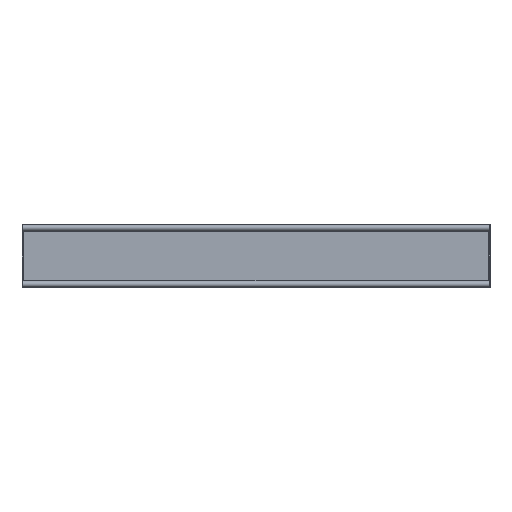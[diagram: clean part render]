
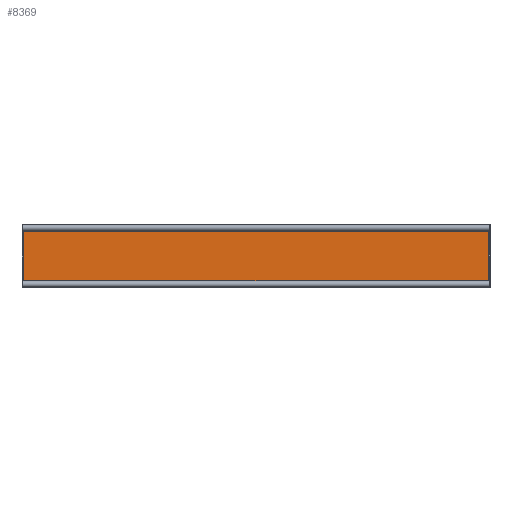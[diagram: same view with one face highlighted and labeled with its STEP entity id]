
A CAD part, front view. The second image highlights one B-rep face of the part: STEP entity #8369.
In plain terms, the highlighted planar face has unit normal (0, -1, 0).
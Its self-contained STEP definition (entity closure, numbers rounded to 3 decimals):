
#37 = CARTESIAN_POINT ( 'NONE',  ( 746., -2., -95. ) ) ;
#262 = CARTESIAN_POINT ( 'NONE',  ( -746., -2., 95. ) ) ;
#359 = CARTESIAN_POINT ( 'NONE',  ( -745., -2., -96. ) ) ;
#413 = ORIENTED_EDGE ( 'NONE', *, *, #2797, .T. ) ;
#825 = CARTESIAN_POINT ( 'NONE',  ( -749., -2., -99. ) ) ;
#831 = ORIENTED_EDGE ( 'NONE', *, *, #1752, .F. ) ;
#893 = VECTOR ( 'NONE', #6471, 1000. ) ;
#1139 = CARTESIAN_POINT ( 'NONE',  ( 746., -2., -99. ) ) ;
#1167 = ORIENTED_EDGE ( 'NONE', *, *, #8067, .T. ) ;
#1228 = CIRCLE ( 'NONE', #5874, 5. ) ;
#1525 = AXIS2_PLACEMENT_3D ( 'NONE', #8696, #1823, #4929 ) ;
#1571 = CIRCLE ( 'NONE', #7829, 5. ) ;
#1607 = AXIS2_PLACEMENT_3D ( 'NONE', #825, #7712, #9167 ) ;
#1752 = EDGE_CURVE ( 'NONE', #8797, #5882, #2778, .T. ) ;
#1823 = DIRECTION ( 'NONE',  ( 0., -1., 0. ) ) ;
#2277 = CARTESIAN_POINT ( 'NONE',  ( -745., -2., 96. ) ) ;
#2351 = EDGE_LOOP ( 'NONE', ( #5913, #1167, #831, #9894, #9229, #2529, #4289, #413 ) ) ;
#2444 = VERTEX_POINT ( 'NONE', #37 ) ;
#2529 = ORIENTED_EDGE ( 'NONE', *, *, #3407, .F. ) ;
#2704 = VECTOR ( 'NONE', #8080, 1000. ) ;
#2778 = CIRCLE ( 'NONE', #6940, 5. ) ;
#2797 = EDGE_CURVE ( 'NONE', #4094, #4148, #5887, .T. ) ;
#2890 = VERTEX_POINT ( 'NONE', #2277 ) ;
#3041 = EDGE_CURVE ( 'NONE', #2444, #4148, #1571, .T. ) ;
#3407 = EDGE_CURVE ( 'NONE', #4959, #4015, #5763, .T. ) ;
#3411 = CARTESIAN_POINT ( 'NONE',  ( -749., -2., -96. ) ) ;
#3488 = DIRECTION ( 'NONE',  ( 0., -1., 0. ) ) ;
#3520 = CARTESIAN_POINT ( 'NONE',  ( -746., -2., -99. ) ) ;
#3597 = CARTESIAN_POINT ( 'NONE',  ( 749., -2., 99. ) ) ;
#3627 = CARTESIAN_POINT ( 'NONE',  ( 745., -2., 96. ) ) ;
#3729 = CARTESIAN_POINT ( 'NONE',  ( -749., -2., -99. ) ) ;
#4015 = VERTEX_POINT ( 'NONE', #262 ) ;
#4094 = VERTEX_POINT ( 'NONE', #359 ) ;
#4148 = VERTEX_POINT ( 'NONE', #9835 ) ;
#4216 = DIRECTION ( 'NONE',  ( 0., 0., 1. ) ) ;
#4289 = ORIENTED_EDGE ( 'NONE', *, *, #7696, .F. ) ;
#4621 = DIRECTION ( 'NONE',  ( 0., 0., 1. ) ) ;
#4640 = FACE_OUTER_BOUND ( 'NONE', #2351, .T. ) ;
#4929 = DIRECTION ( 'NONE',  ( 0., 0., 1. ) ) ;
#4959 = VERTEX_POINT ( 'NONE', #9135 ) ;
#5080 = CARTESIAN_POINT ( 'NONE',  ( 749., -2., -99. ) ) ;
#5763 = LINE ( 'NONE', #3520, #2704 ) ;
#5874 = AXIS2_PLACEMENT_3D ( 'NONE', #3729, #6845, #4621 ) ;
#5882 = VERTEX_POINT ( 'NONE', #6931 ) ;
#5887 = LINE ( 'NONE', #3411, #893 ) ;
#5913 = ORIENTED_EDGE ( 'NONE', *, *, #3041, .F. ) ;
#6204 = DIRECTION ( 'NONE',  ( 1., 0., 0. ) ) ;
#6466 = DIRECTION ( 'NONE',  ( 0., 0., 1. ) ) ;
#6471 = DIRECTION ( 'NONE',  ( 1., 0., 0. ) ) ;
#6498 = CIRCLE ( 'NONE', #1525, 5. ) ;
#6845 = DIRECTION ( 'NONE',  ( 0., -1., 0. ) ) ;
#6903 = EDGE_CURVE ( 'NONE', #4015, #2890, #6498, .T. ) ;
#6931 = CARTESIAN_POINT ( 'NONE',  ( 746., -2., 95. ) ) ;
#6940 = AXIS2_PLACEMENT_3D ( 'NONE', #3597, #9122, #8162 ) ;
#6958 = PLANE ( 'NONE',  #1607 ) ;
#7696 = EDGE_CURVE ( 'NONE', #4094, #4959, #1228, .T. ) ;
#7712 = DIRECTION ( 'NONE',  ( 0., 1., 0. ) ) ;
#7722 = CARTESIAN_POINT ( 'NONE',  ( -749., -2., 96. ) ) ;
#7829 = AXIS2_PLACEMENT_3D ( 'NONE', #5080, #3488, #4216 ) ;
#7915 = VECTOR ( 'NONE', #6466, 1000. ) ;
#8019 = LINE ( 'NONE', #1139, #7915 ) ;
#8020 = EDGE_CURVE ( 'NONE', #2890, #8797, #8577, .T. ) ;
#8067 = EDGE_CURVE ( 'NONE', #2444, #5882, #8019, .T. ) ;
#8080 = DIRECTION ( 'NONE',  ( 0., 0., 1. ) ) ;
#8162 = DIRECTION ( 'NONE',  ( 0., 0., 1. ) ) ;
#8369 = ADVANCED_FACE ( 'NONE', ( #4640 ), #6958, .F. ) ;
#8577 = LINE ( 'NONE', #7722, #8877 ) ;
#8696 = CARTESIAN_POINT ( 'NONE',  ( -749., -2., 99. ) ) ;
#8797 = VERTEX_POINT ( 'NONE', #3627 ) ;
#8877 = VECTOR ( 'NONE', #6204, 1000. ) ;
#9122 = DIRECTION ( 'NONE',  ( 0., -1., 0. ) ) ;
#9135 = CARTESIAN_POINT ( 'NONE',  ( -746., -2., -95. ) ) ;
#9167 = DIRECTION ( 'NONE',  ( 0., 0., 1. ) ) ;
#9229 = ORIENTED_EDGE ( 'NONE', *, *, #6903, .F. ) ;
#9835 = CARTESIAN_POINT ( 'NONE',  ( 745., -2., -96. ) ) ;
#9894 = ORIENTED_EDGE ( 'NONE', *, *, #8020, .F. ) ;
